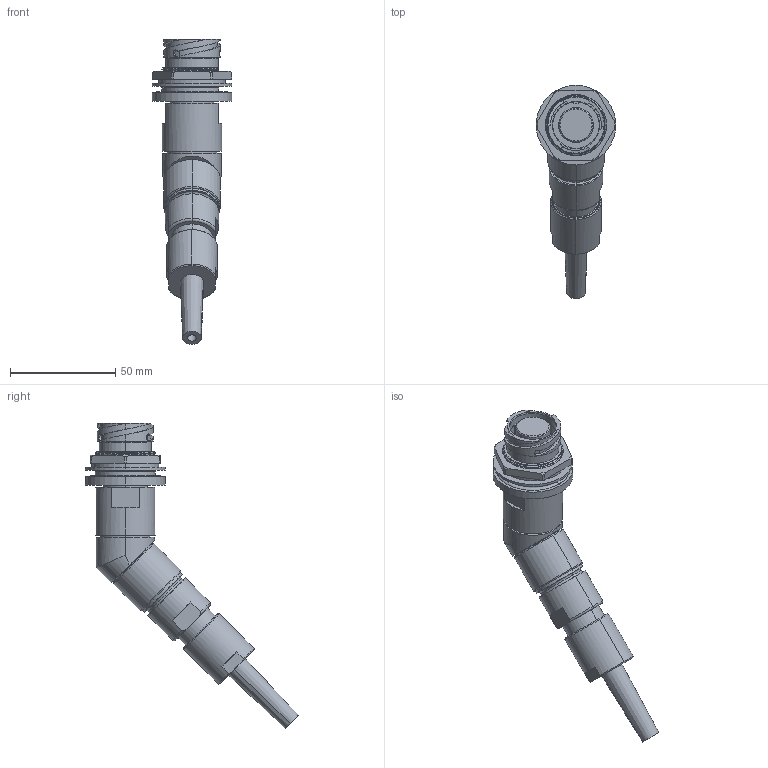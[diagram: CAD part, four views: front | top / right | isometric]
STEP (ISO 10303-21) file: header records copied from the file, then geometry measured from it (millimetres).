
FILE_DESCRIPTION (( 'STEP AP214' ), '1' );
FILE_NAME ('QLINK45-RJBX-15XX-SXXX-RA.STEP', '2025-12-17T16:19:05', ( '' ), ( '' ), 'SwSTEP 2.0', 'SolidWorks 2024', '' );
FILE_SCHEMA (( 'AUTOMOTIVE_DESIGN' ));
Length unit declared in the file: millimetre
Products named in the file (1): QLINK45-RJBX-15XX-SXXX-RA
Bounding box: 37.85 x 101.12 x 144.77 mm (x, y, z)
Volume: 76343.5 mm3; surface area: 24513.6 mm2
Topology: 3 solids, 3 shells, 286 faces, 704 edges, 449 vertices
Faces by surface type: cylinder 94, plane 61, bspline 55, cone 53, torus 23
Entity records: 27191 total; most frequent: CARTESIAN_POINT 20991, ORIENTED_EDGE 1408, DIRECTION 1166, EDGE_CURVE 704, AXIS2_PLACEMENT_3D 483, VERTEX_POINT 449, EDGE_LOOP 315, ADVANCED_FACE 286
